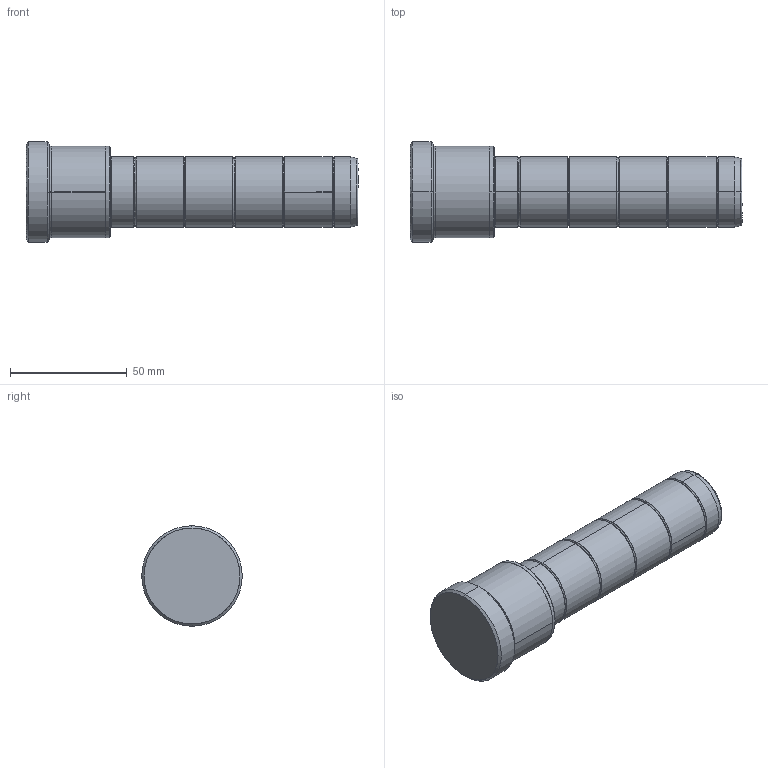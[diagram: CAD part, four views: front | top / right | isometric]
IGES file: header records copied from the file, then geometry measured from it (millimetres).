
Start section: SolidWorks IGES file using analytic representation for surfaces
Global section: file name: C:\Users\Dell\Desktop\deltakont\kontrol edilecekler\D02\Ø30\D02_30x36x106.IGS; native system: SolidWorks 2010; preprocessor: SolidWorks 2010; author: Dell; date: 111226.231746; units: millimetre
Bounding box: 142 x 43 x 43 mm (x, y, z)
Surface area: 17379.1 mm2 (no closed solid volume)
Topology: 0 solids, 0 shells, 60 faces, 800 edges, 800 vertices
Faces by surface type: revolution 30, bspline 30
